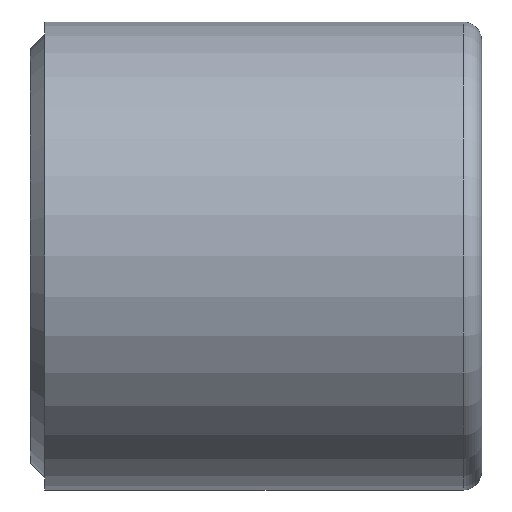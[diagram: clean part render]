
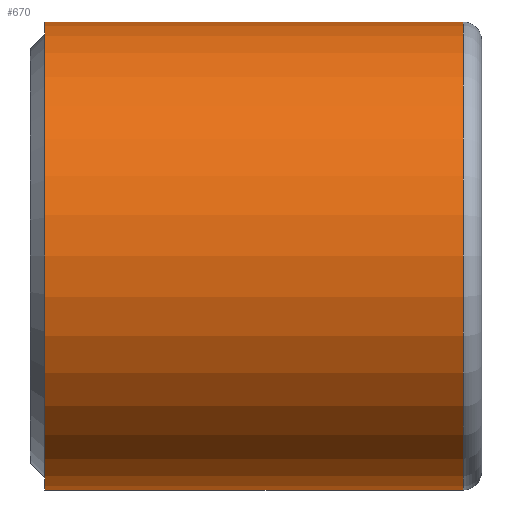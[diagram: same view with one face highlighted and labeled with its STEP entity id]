
A CAD part, front view. The second image highlights one B-rep face of the part: STEP entity #670.
In plain terms, the highlighted cylindrical face has radius 24.054 mm (diameter 48.108 mm), a partial arc.
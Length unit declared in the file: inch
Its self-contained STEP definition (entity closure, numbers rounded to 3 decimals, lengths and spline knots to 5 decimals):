
#15 = ORIENTED_EDGE ( 'NONE', *, *, #683, .T. ) ;
#67 = CYLINDRICAL_SURFACE ( 'NONE', #623, 0.947 ) ;
#135 = CARTESIAN_POINT ( 'NONE',  ( 0., 0., 0. ) ) ;
#142 = DIRECTION ( 'NONE',  ( 0., 0., 1. ) ) ;
#176 = EDGE_LOOP ( 'NONE', ( #300, #939, #15, #682 ) ) ;
#223 = VERTEX_POINT ( 'NONE', #603 ) ;
#271 = CARTESIAN_POINT ( 'NONE',  ( 1.75174, 0., 0.947 ) ) ;
#288 = LINE ( 'NONE', #805, #796 ) ;
#300 = ORIENTED_EDGE ( 'NONE', *, *, #776, .F. ) ;
#345 = DIRECTION ( 'NONE',  ( 0., 0., 1. ) ) ;
#354 = CIRCLE ( 'NONE', #428, 0.947 ) ;
#373 = CIRCLE ( 'NONE', #589, 0.947 ) ;
#428 = AXIS2_PLACEMENT_3D ( 'NONE', #944, #718, #345 ) ;
#431 = DIRECTION ( 'NONE',  ( 0., 0., 1. ) ) ;
#436 = CARTESIAN_POINT ( 'NONE',  ( 0., 0., -0.947 ) ) ;
#448 = VERTEX_POINT ( 'NONE', #611 ) ;
#502 = DIRECTION ( 'NONE',  ( -1., 0., 0. ) ) ;
#510 = CARTESIAN_POINT ( 'NONE',  ( 1.75174, 0., 0. ) ) ;
#518 = FACE_OUTER_BOUND ( 'NONE', #176, .T. ) ;
#586 = DIRECTION ( 'NONE',  ( -1., 0., 0. ) ) ;
#589 = AXIS2_PLACEMENT_3D ( 'NONE', #510, #784, #431 ) ;
#603 = CARTESIAN_POINT ( 'NONE',  ( 0.05874, 0., -0.947 ) ) ;
#609 = VERTEX_POINT ( 'NONE', #828 ) ;
#611 = CARTESIAN_POINT ( 'NONE',  ( 0.05874, 0., 0.947 ) ) ;
#623 = AXIS2_PLACEMENT_3D ( 'NONE', #135, #899, #142 ) ;
#670 = ADVANCED_FACE ( 'NONE', ( #518 ), #67, .T. ) ;
#682 = ORIENTED_EDGE ( 'NONE', *, *, #786, .F. ) ;
#683 = EDGE_CURVE ( 'NONE', #823, #448, #288, .T. ) ;
#718 = DIRECTION ( 'NONE',  ( -1., 0., 0. ) ) ;
#763 = EDGE_CURVE ( 'NONE', #609, #823, #373, .T. ) ;
#776 = EDGE_CURVE ( 'NONE', #609, #223, #875, .T. ) ;
#784 = DIRECTION ( 'NONE',  ( -1., 0., 0. ) ) ;
#786 = EDGE_CURVE ( 'NONE', #223, #448, #354, .T. ) ;
#796 = VECTOR ( 'NONE', #586, 39.37008 ) ;
#797 = VECTOR ( 'NONE', #502, 39.37008 ) ;
#805 = CARTESIAN_POINT ( 'NONE',  ( 0., 0., 0.947 ) ) ;
#823 = VERTEX_POINT ( 'NONE', #271 ) ;
#828 = CARTESIAN_POINT ( 'NONE',  ( 1.75174, 0., -0.947 ) ) ;
#875 = LINE ( 'NONE', #436, #797 ) ;
#899 = DIRECTION ( 'NONE',  ( -1., 0., 0. ) ) ;
#939 = ORIENTED_EDGE ( 'NONE', *, *, #763, .T. ) ;
#944 = CARTESIAN_POINT ( 'NONE',  ( 0.05874, 0., 0. ) ) ;
